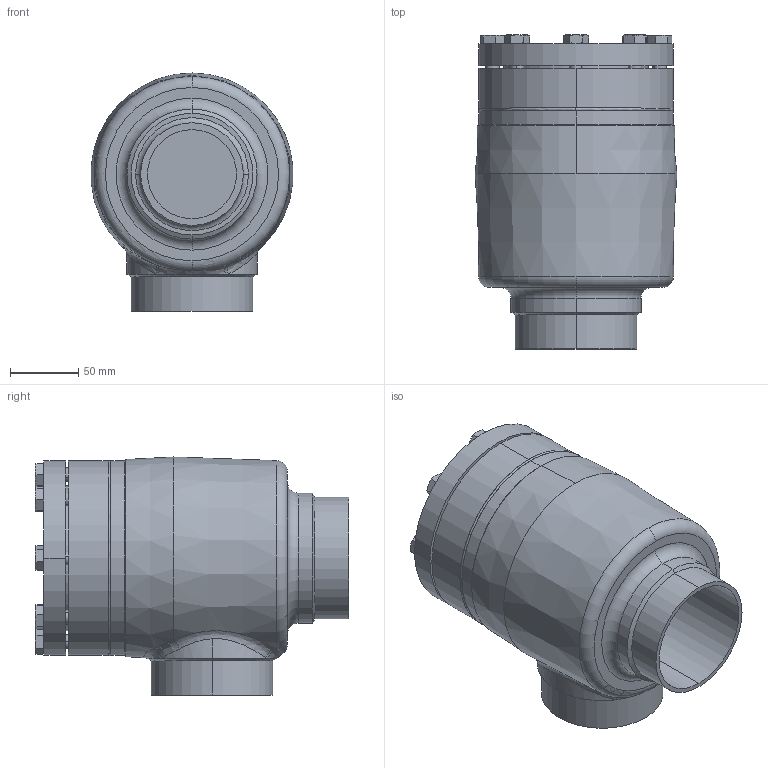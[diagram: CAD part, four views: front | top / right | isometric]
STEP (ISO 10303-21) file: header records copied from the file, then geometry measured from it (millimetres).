
FILE_DESCRIPTION (( 'STEP AP214' ), '1' );
FILE_NAME ('RV28400D18-DN080_R1_PS40.STEP', '2007-01-08T07:36:59', ( 'Herr Grams' ), ( 'AWP GmbH' ), 'SwSTEP 2.0', 'SolidWorks 2002296', '' );
FILE_SCHEMA (( 'AUTOMOTIVE_DESIGN' ));
Length unit declared in the file: millimetre
Products named in the file (8): RV28400D18-DN080_R1_PS40; Gehäuse-kpl16400-DN080_R1_Standard; bead-DN080-1_Standard; Gehäuse16400-DN080_Standard; Kopfstück16300-DN080_Standard; RV28300E18_Deck+Schr-DN80_Standard; Deckel28300E18-DN80_Standard; Sechskantschraube-DIN933_M10x 30
Assembly tree (14 placements, depth 3):
  RV28400D18-DN080_R1_PS40
    RV28300E18_Deck+Schr-DN80_Standard
      Sechskantschraube-DIN933_M10x 30  x8
      Deckel28300E18-DN80_Standard
    Gehäuse-kpl16400-DN080_R1_Standard
      Kopfstück16300-DN080_Standard
      bead-DN080-1_Standard
      Gehäuse16400-DN080_Standard
Bounding box: 147.49 x 229.4 x 173.89 mm (x, y, z)
Volume: 1680081.6 mm3; surface area: 294165.7 mm2
Topology: 12 solids, 12 shells, 295 faces, 634 edges, 377 vertices
Faces by surface type: cone 123, plane 88, cylinder 66, bspline 12, torus 6
Entity records: 15034 total; most frequent: CARTESIAN_POINT 11787, DIRECTION 607, ORIENTED_EDGE 540, EDGE_CURVE 270, AXIS2_PLACEMENT_3D 270, VERTEX_POINT 167, EDGE_LOOP 151, CIRCLE 143
